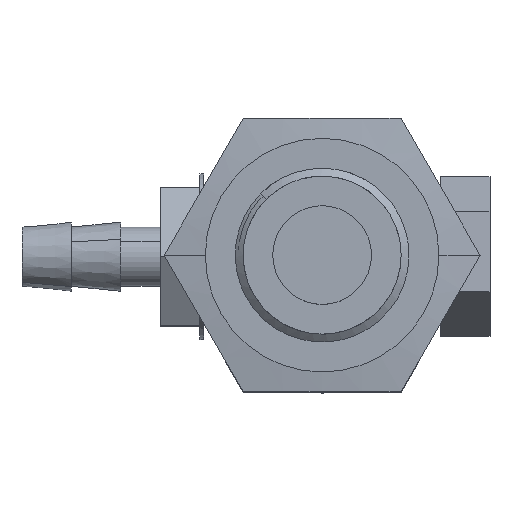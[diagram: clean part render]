
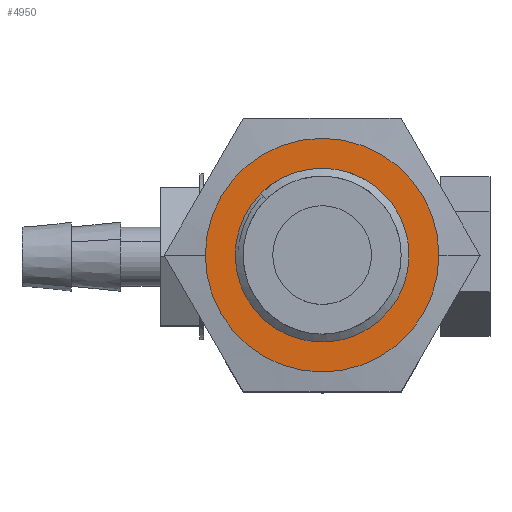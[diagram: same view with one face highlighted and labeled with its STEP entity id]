
A CAD part, top view. The second image highlights one B-rep face of the part: STEP entity #4950.
In plain terms, the highlighted planar face has unit normal (0, 0, 1).
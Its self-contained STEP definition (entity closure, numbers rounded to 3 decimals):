
#303 = CIRCLE ( 'NONE', #6184, 5.916 ) ;
#1453 = AXIS2_PLACEMENT_3D ( 'NONE', #11261, #4701, #12330 ) ;
#1531 = CIRCLE ( 'NONE', #7185, 4.25 ) ;
#1770 = VERTEX_POINT ( 'NONE', #6318 ) ;
#2029 = CARTESIAN_POINT ( 'NONE',  ( 3.332, -0.348, 25.25 ) ) ;
#2937 = DIRECTION ( 'NONE',  ( 0., 0., 1. ) ) ;
#3217 = DIRECTION ( 'NONE',  ( 1., 0., 0. ) ) ;
#3553 = VERTEX_POINT ( 'NONE', #4429 ) ;
#3647 = ORIENTED_EDGE ( 'NONE', *, *, #7708, .T. ) ;
#3689 = ORIENTED_EDGE ( 'NONE', *, *, #8447, .T. ) ;
#3733 = ORIENTED_EDGE ( 'NONE', *, *, #8258, .T. ) ;
#3838 = EDGE_LOOP ( 'NONE', ( #3647, #3733 ) ) ;
#4016 = EDGE_LOOP ( 'NONE', ( #3689, #12639 ) ) ;
#4429 = CARTESIAN_POINT ( 'NONE',  ( -0.918, -0.348, 25.25 ) ) ;
#4701 = DIRECTION ( 'NONE',  ( 0., 0., 1. ) ) ;
#4909 = CARTESIAN_POINT ( 'NONE',  ( 3.332, -0.348, 25.25 ) ) ;
#4950 = ADVANCED_FACE ( 'NONE', ( #10239, #13420 ), #12240, .T. ) ;
#5192 = DIRECTION ( 'NONE',  ( 0., 0., 1. ) ) ;
#5295 = VERTEX_POINT ( 'NONE', #8449 ) ;
#5541 = CARTESIAN_POINT ( 'NONE',  ( 9.248, -0.348, 25.25 ) ) ;
#5979 = DIRECTION ( 'NONE',  ( 1., 0., 0. ) ) ;
#6184 = AXIS2_PLACEMENT_3D ( 'NONE', #11750, #5192, #12807 ) ;
#6318 = CARTESIAN_POINT ( 'NONE',  ( -2.584, -0.348, 25.25 ) ) ;
#7185 = AXIS2_PLACEMENT_3D ( 'NONE', #4909, #12520, #5979 ) ;
#7502 = EDGE_CURVE ( 'NONE', #9190, #1770, #10967, .T. ) ;
#7708 = EDGE_CURVE ( 'NONE', #5295, #3553, #9748, .T. ) ;
#8258 = EDGE_CURVE ( 'NONE', #3553, #5295, #1531, .T. ) ;
#8447 = EDGE_CURVE ( 'NONE', #1770, #9190, #303, .T. ) ;
#8449 = CARTESIAN_POINT ( 'NONE',  ( 7.582, -0.348, 25.25 ) ) ;
#9190 = VERTEX_POINT ( 'NONE', #5541 ) ;
#9545 = CARTESIAN_POINT ( 'NONE',  ( 3.332, -0.348, 25.25 ) ) ;
#9748 = CIRCLE ( 'NONE', #12145, 4.25 ) ;
#9832 = DIRECTION ( 'NONE',  ( 0., 0., -1. ) ) ;
#10239 = FACE_BOUND ( 'NONE', #3838, .T. ) ;
#10685 = DIRECTION ( 'NONE',  ( -1., 0., 0. ) ) ;
#10967 = CIRCLE ( 'NONE', #12397, 5.916 ) ;
#11261 = CARTESIAN_POINT ( 'NONE',  ( -2.655, -6.335, 25.25 ) ) ;
#11750 = CARTESIAN_POINT ( 'NONE',  ( 3.332, -0.348, 25.25 ) ) ;
#12145 = AXIS2_PLACEMENT_3D ( 'NONE', #2029, #9832, #3217 ) ;
#12240 = PLANE ( 'NONE',  #1453 ) ;
#12330 = DIRECTION ( 'NONE',  ( 1., 0., 0. ) ) ;
#12397 = AXIS2_PLACEMENT_3D ( 'NONE', #9545, #2937, #10685 ) ;
#12520 = DIRECTION ( 'NONE',  ( 0., 0., -1. ) ) ;
#12639 = ORIENTED_EDGE ( 'NONE', *, *, #7502, .T. ) ;
#12807 = DIRECTION ( 'NONE',  ( -1., 0., 0. ) ) ;
#13420 = FACE_OUTER_BOUND ( 'NONE', #4016, .T. ) ;
